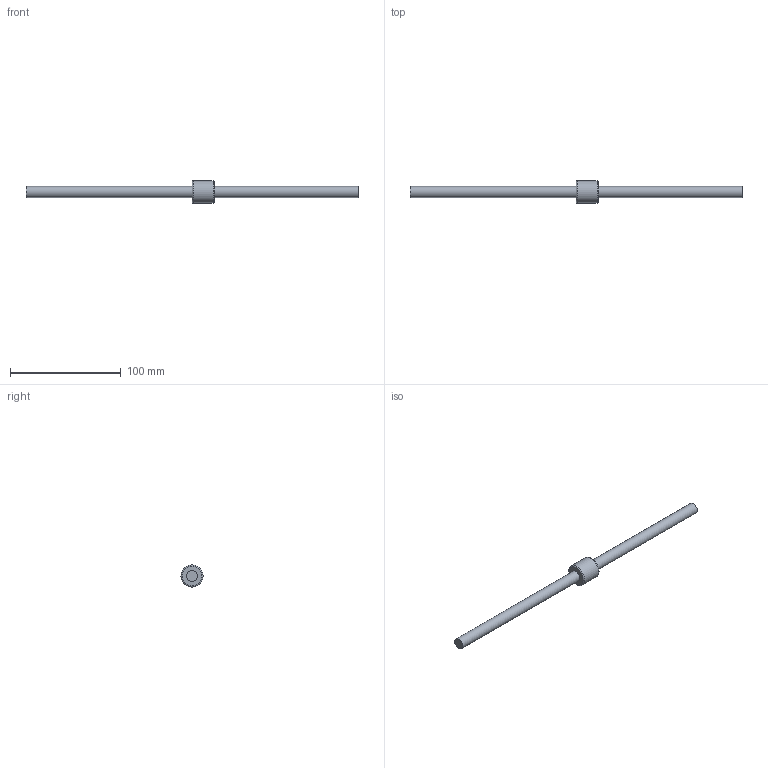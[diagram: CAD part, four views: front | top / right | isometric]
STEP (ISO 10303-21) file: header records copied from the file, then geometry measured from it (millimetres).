
FILE_DESCRIPTION((''),'2;1');
FILE_NAME('D:\製品 (図面)\カタログ用3D\ネジ関連\STEP形式\TMS\TMS10.stp','2010-06-02T15:30:40',('Tsuchiya'),(''),'Autodesk Inventor 10','Autodesk Inventor 10','');
FILE_SCHEMA(('AUTOMOTIVE_DESIGN { 1 0 10303 214 1 1 1 1 }'));
Length unit declared in the file: millimetre
Products named in the file (3): TMS10; TMS101; TMS102
Assembly tree (2 placements, depth 2):
  TMS10
    TMS101
    TMS102
Bounding box: 300 x 20 x 20 mm (x, y, z)
Volume: 28248 mm3; surface area: 11883.2 mm2
Topology: 2 solids, 2 shells, 9 faces, 13 edges, 8 vertices
Faces by surface type: plane 4, cylinder 3, torus 2
Full cylindrical faces by diameter (mm): 10 x2, 20 x1
Entity records: 254 total; most frequent: DIRECTION 44, CARTESIAN_POINT 30, AXIS2_PLACEMENT_3D 22, ORIENTED_EDGE 16, EDGE_LOOP 16, FACE_OUTER_BOUND 9, ADVANCED_FACE 9, VERTEX_POINT 8
